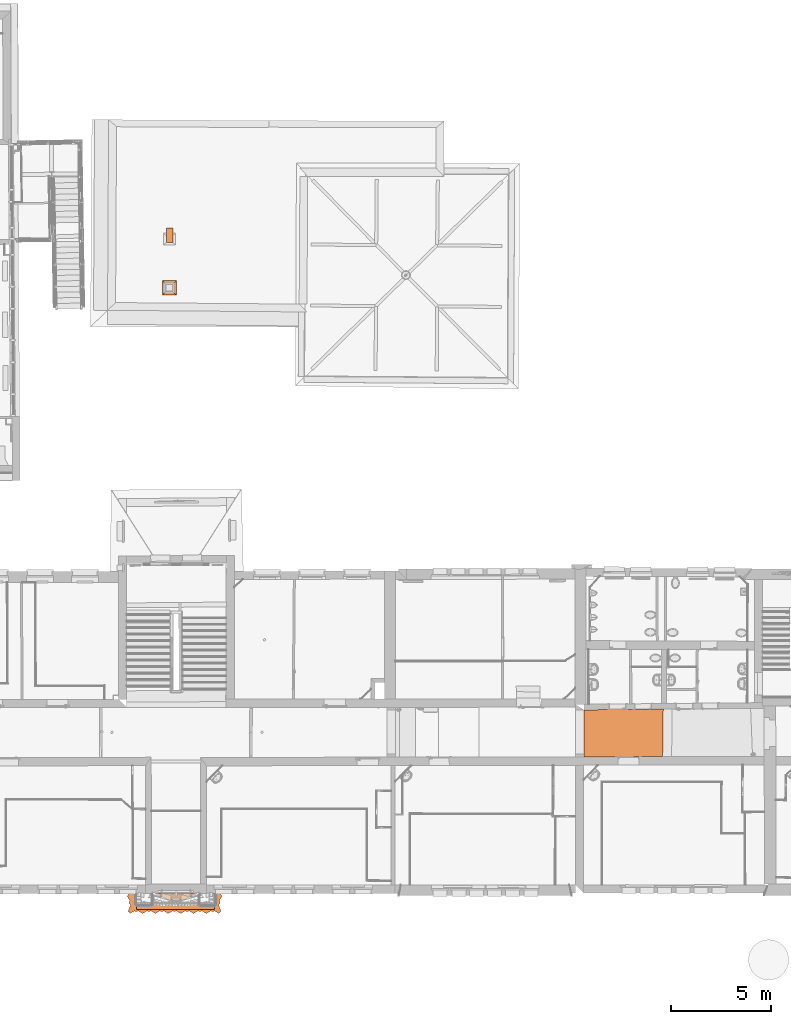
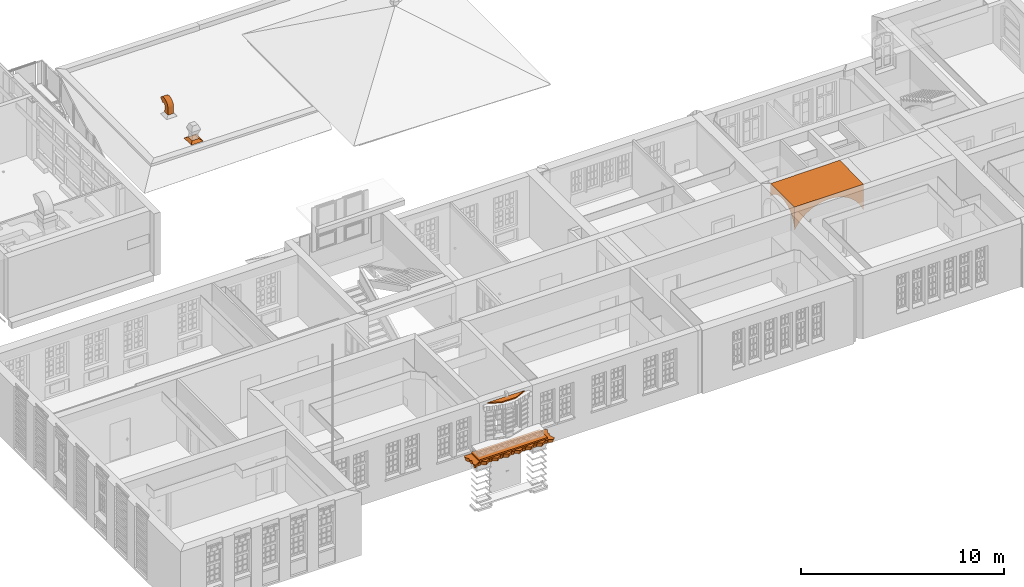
# One storey, part 149 of 158: 6 proxies.
"""IFC2X3 building model written with IfcOpenShell, lengths in metres."""

import ifcopenshell
import ifcopenshell.guid

model = None  # the IFC model being written
_history = None  # IfcOwnerHistory: only IFC2X3 demands one
_inside = {}  # id of a spatial element -> (the spatial element, [elements in it])
_under = {}  # id of a project, library or spatial element -> (it, [spatial elements below it])
_declared = {}  # id of a project -> (the project, [libraries it declares])
_typed = {}  # id of a type object -> (the type object, [elements of that type])
_made_of = {}  # id of a material, layer set ... -> (it, [elements and type objects made of it])


def new_model(schema):
    """Start an empty IFC model of exactly this schema.

    Asked for "IFC4X3", IfcOpenShell would pick the latest addendum, in which some entities
    have other attributes; the version numbers below select the first issue.
    IFC2X3 requires an IfcOwnerHistory on every rooted entity: one is made here for all.
    """
    global model, _history
    if schema == "IFC4X3":
        model = ifcopenshell.file(schema_version=(4, 3, 0, 0))
    else:
        model = ifcopenshell.file(schema=schema)
    _inside.clear()
    _under.clear()
    _declared.clear()
    _typed.clear()
    _made_of.clear()
    _history = None
    if model.schema == "IFC2X3":
        org = make("IfcOrganization", Name="unknown")
        user = make(
            "IfcPersonAndOrganization",
            ThePerson=make("IfcPerson", FamilyName="unknown"),
            TheOrganization=org,
        )
        app = make(
            "IfcApplication",
            ApplicationDeveloper=org,
            Version="unknown",
            ApplicationFullName="unknown",
            ApplicationIdentifier="unknown",
        )
        _history = make(
            "IfcOwnerHistory",
            OwningUser=user,
            OwningApplication=app,
            ChangeAction="ADDED",
            CreationDate=0,
        )
    return model


def make(cls, **values):
    """One entity of the class cls with the attributes given. An attribute that is None is left unset."""
    return model.create_entity(
        cls, **{name: value for name, value in values.items() if value is not None}
    )


def entity(cls, *values):
    """Any entity or typed value of the class cls, its attributes in the order of the schema. None: left unset."""
    e = model.create_entity(cls)
    for i, value in enumerate(values):
        if value is not None:
            e[i] = value
    return e


def rooted(cls, **values):
    """An entity with a GlobalId (a new one), such as an element, a storey or a relation."""
    return make(cls, GlobalId=ifcopenshell.guid.new(), OwnerHistory=_history, **values)


def si_unit(unit_type, name, prefix=None):
    """IfcSIUnit, for example si_unit("LENGTHUNIT", "METRE", prefix="MILLI")."""
    return make("IfcSIUnit", UnitType=unit_type, Prefix=prefix, Name=name)


def converted_unit(unit_type, name, factor, base, dimensions=None, offset=None):
    """IfcConversionBasedUnit, such as the inch: factor (a typed value) times the base unit."""
    return make(
        "IfcConversionBasedUnit"
        if offset is None
        else "IfcConversionBasedUnitWithOffset",
        ConversionOffset=offset,
        Dimensions=None
        if dimensions is None
        else entity("IfcDimensionalExponents", *dimensions),
        UnitType=unit_type,
        Name=name,
        ConversionFactor=make(
            "IfcMeasureWithUnit", ValueComponent=factor, UnitComponent=base
        ),
    )


def derived_unit(unit_type, elements):
    """IfcDerivedUnit: a product of units, each with its exponent."""
    return make(
        "IfcDerivedUnit",
        Elements=[
            make("IfcDerivedUnitElement", Unit=unit, Exponent=power)
            for unit, power in elements
        ],
        UnitType=unit_type,
    )


def money_unit(currency):
    """IfcMonetaryUnit."""
    return make("IfcMonetaryUnit", Currency=currency)


def assignment(units):
    """IfcUnitAssignment: the units of a project."""
    return None if units is None else make("IfcUnitAssignment", Units=units)


def point(xyz):
    """IfcCartesianPoint."""
    return None if xyz is None else make("IfcCartesianPoint", Coordinates=xyz)


def direction(xyz):
    """IfcDirection."""
    return None if xyz is None else make("IfcDirection", DirectionRatios=xyz)


def frame(location, z_axis=None, x_axis=None):
    """IfcAxis2Placement3D, a coordinate frame: its origin and axes. An axis left out is left unset."""
    return make(
        "IfcAxis2Placement3D",
        Location=point(location),
        Axis=direction(z_axis),
        RefDirection=direction(x_axis),
    )


def origin_with_axes():
    """The frame at (0, 0, 0) with the z axis (0, 0, 1) and the x axis (1, 0, 0) written out."""
    return frame((0.0, 0.0, 0.0), z_axis=(0.0, 0.0, 1.0), x_axis=(1.0, 0.0, 0.0))


def place(relative_to, where):
    """IfcLocalPlacement: puts the frame where relative to a parent placement (None: the world)."""
    return make(
        "IfcLocalPlacement", PlacementRelTo=relative_to, RelativePlacement=where
    )


def context(
    kind, dimensions, precision=None, world=None, true_north=None, identifier=None
):
    """IfcGeometricRepresentationContext, for example the 3D "Model" context."""
    return make(
        "IfcGeometricRepresentationContext",
        ContextIdentifier=identifier,
        ContextType=kind,
        CoordinateSpaceDimension=dimensions,
        Precision=precision,
        WorldCoordinateSystem=world,
        TrueNorth=true_north,
    )


def subcontext(parent, identifier, kind, view, scale=None):
    """IfcGeometricRepresentationSubContext, for example "Body" below "Model"."""
    return make(
        "IfcGeometricRepresentationSubContext",
        ContextIdentifier=identifier,
        ContextType=kind,
        ParentContext=parent,
        TargetScale=scale,
        TargetView=view,
    )


def project(units=None, contexts=None):
    """IfcProject with its units and contexts."""
    return rooted(
        "IfcProject",
        Name="project",
        RepresentationContexts=contexts,
        UnitsInContext=assignment(units),
    )


def spatial(cls, under=None, at=None, **own):
    """A site, building, storey or space (cls), placed at a placement, below another one or the project."""
    s = rooted(cls, ObjectPlacement=at, **own)
    if under is not None:
        _under.setdefault(under.id(), (under, []))[1].append(s)
    return s


def faces_of(points, faces, orient=None, outer=None):
    """IfcFace entities. A face is a list of loops; a loop is a list of indices into points, from 0.

    orient and outer hold one flag for each loop. By default every Orientation is true, the
    first loop of a face is its IfcFaceOuterBound and the others are IfcFaceBound.
    """
    made = []
    for i, loops in enumerate(faces):
        bounds = []
        for j, loop in enumerate(loops):
            is_outer = j == 0 if outer is None else outer[i][j]
            bounds.append(
                make(
                    "IfcFaceOuterBound" if is_outer else "IfcFaceBound",
                    Bound=make("IfcPolyLoop", Polygon=[points[k] for k in loop]),
                    Orientation=True if orient is None else orient[i][j],
                )
            )
        made.append(make("IfcFace", Bounds=bounds))
    return made


def faceted_brep(points, faces, orient=None, outer=None, voids=None):
    """IfcFacetedBrep: a solid bounded by flat faces; with voids (closed shells), ...WithVoids."""
    shared = [point(p) for p in points]
    hull = make("IfcClosedShell", CfsFaces=faces_of(shared, faces, orient, outer))
    if voids is None:
        return make("IfcFacetedBrep", Outer=hull)
    return make(
        "IfcFacetedBrepWithVoids",
        Outer=hull,
        Voids=[
            make(cls, CfsFaces=faces_of(shared, fs, o, b)) for cls, fs, o, b in voids
        ],
    )


def shape(context_of_items, identifier, shape_type, items):
    """IfcShapeRepresentation: the items that make up one representation, for example the "Body"."""
    return make(
        "IfcShapeRepresentation",
        ContextOfItems=context_of_items,
        RepresentationIdentifier=identifier,
        RepresentationType=shape_type,
        Items=items,
    )


def material(Name=None, Category=None):
    """IfcMaterial."""
    return make("IfcMaterial", Name=Name, Category=Category)


def made_of(thing, what):
    """Note that an element or type object is made of a material, layer set ...; save() writes the relation."""
    if what is not None:
        _made_of.setdefault(what.id(), (what, []))[1].append(thing)
    return thing


def type_object(cls, material=None, **own):
    """A type object (cls), such as IfcWallType, which elements share."""
    return made_of(rooted(cls, **own), material)


def element(
    cls,
    number,
    at=None,
    inside=None,
    cuts=None,
    type_object=None,
    material=None,
    context=None,
    identifier="Body",
    shape_type=None,
    held_by="IfcProductDefinitionShape",
    body=None,
    shapes=None,
    **own,
):
    """One element of the class cls, such as IfcWall. Its Tag is "e" and its number.

    at: its placement. inside: the storey or other place that contains it. cuts: it is an
    opening in that element (IfcRelVoidsElement). A single representation is given by context,
    identifier, shape_type and body (its items); several are given by shapes. held_by: the class
    of the entity that holds the representations. save() writes the other relations.
    """
    e = rooted(cls, Tag="e%d" % number, ObjectPlacement=at, **own)
    if body is not None:
        shapes = [shape(context, identifier, shape_type, body)]
    if shapes is not None:
        e.Representation = make(held_by, Representations=shapes)
    if inside is not None:
        _inside.setdefault(inside.id(), (inside, []))[1].append(e)
    if cuts is not None:
        rooted(
            "IfcRelVoidsElement", RelatingBuildingElement=cuts, RelatedOpeningElement=e
        )
    if type_object is not None:
        _typed.setdefault(type_object.id(), (type_object, []))[1].append(e)
    return made_of(e, material)


def aggregate(whole, parts):
    """IfcRelAggregates: a whole, such as a stair, and the parts it consists of."""
    return rooted("IfcRelAggregates", RelatingObject=whole, RelatedObjects=parts)


def save(model, path):
    """Write the relations noted so far, then the file.

    IfcRelAggregates (storeys below a building ...), IfcRelContainedInSpatialStructure (elements
    in a storey), IfcRelDefinesByType, IfcRelAssociatesMaterial and IfcRelDeclares: one each for
    every whole, place, type object, material and project.
    """
    for whole, parts in _under.values():
        aggregate(whole, parts)
    for where, things in _inside.values():
        rooted(
            "IfcRelContainedInSpatialStructure",
            RelatedElements=things,
            RelatingStructure=where,
        )
    for kind, things in _typed.values():
        rooted("IfcRelDefinesByType", RelatedObjects=things, RelatingType=kind)
    for what, things in _made_of.values():
        rooted("IfcRelAssociatesMaterial", RelatedObjects=things, RelatingMaterial=what)
    for by, libraries in _declared.values():
        rooted("IfcRelDeclares", RelatingContext=by, RelatedDefinitions=libraries)
    model.write(path)


model = new_model("IFC2X3")

# Units and contexts
model_context = context("Model", 3, precision=1e-05, world=origin_with_axes(), true_north=direction((0.0, 1.0)))
body_context = subcontext(model_context, "Body", "Model", "MODEL_VIEW")
ifc_project = project(units=[si_unit("LENGTHUNIT", "METRE"), si_unit("AREAUNIT", "SQUARE_METRE"), si_unit("VOLUMEUNIT", "CUBIC_METRE"), converted_unit("PLANEANGLEUNIT", "DEGREE", entity("IfcPlaneAngleMeasure", 0.0174532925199), si_unit("PLANEANGLEUNIT", "RADIAN"), dimensions=[0, 0, 0, 0, 0, 0, 0]), money_unit("EUR"), converted_unit("TIMEUNIT", "Year", entity("IfcTimeMeasure", 31556926.0), si_unit("TIMEUNIT", "SECOND"), dimensions=[0, 0, 1, 0, 0, 0, 0]), si_unit("MASSUNIT", "GRAM", prefix="KILO"), si_unit("THERMODYNAMICTEMPERATUREUNIT", "DEGREE_CELSIUS"), si_unit("LUMINOUSINTENSITYUNIT", "LUMEN"), si_unit("ENERGYUNIT", "JOULE", prefix="MEGA"), derived_unit("THERMALCONDUCTANCEUNIT", [(si_unit("POWERUNIT", "WATT"), 1), (si_unit("LENGTHUNIT", "METRE"), -1), (si_unit("THERMODYNAMICTEMPERATUREUNIT", "KELVIN"), -1)]), derived_unit("SPECIFICHEATCAPACITYUNIT", [(si_unit("ENERGYUNIT", "JOULE"), 1), (si_unit("MASSUNIT", "GRAM", prefix="KILO"), -1), (si_unit("THERMODYNAMICTEMPERATUREUNIT", "KELVIN"), -1)]), derived_unit("MASSDENSITYUNIT", [(si_unit("MASSUNIT", "GRAM", prefix="KILO"), 1), (si_unit("VOLUMEUNIT", "CUBIC_METRE"), -1)])], contexts=[model_context])

# Site, building, storey
site_placement = place(None, origin_with_axes())
site = spatial("IfcSite", under=ifc_project, at=site_placement, Name="Gelände", CompositionType="ELEMENT")
building_placement = place(site_placement, origin_with_axes())
building = spatial("IfcBuilding", under=site, at=building_placement, Name="Gebäude", CompositionType="ELEMENT")
storey_placement = place(building_placement, origin_with_axes())
storey = spatial("IfcBuildingStorey", under=building, at=storey_placement, Name="ERDGESCHOSS", CompositionType="ELEMENT", Elevation=0.0)

# Proxies
ifc_material = material(Name="01_ALLGEMEIN - BAUTEIL")
building_element_proxy_type_1 = type_object("IfcBuildingElementProxyType", Name="01_ALLGEMEIN - BAUTEIL", PredefinedType="NOTDEFINED")
proxy_1_placement = place(storey_placement, frame((-9.35951659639, 9.18462417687, 0.741435), z_axis=(0.0, 0.0, 1.0), x_axis=(1.0, 0.0, 0.0)))
element("IfcBuildingElementProxy", 1, at=proxy_1_placement, inside=storey, type_object=building_element_proxy_type_1, material=ifc_material, Name="Morph-173", context=body_context, shape_type="Brep", body=[
    faceted_brep([(0.0, 0.0, 0.0), (0.0, 0.79081451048, 0.0), (3.89429167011, 0.79081451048, 0.0), (3.89429167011, 0.0, 0.0), (0.0, 0.0, 0.0845635), (0.0, 0.79081451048, 0.0845635), (3.89429167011, 0.79081451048, 0.0845635), (3.89429167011, 0.0, 0.0845635)], [[[0, 1, 2, 3]], [[1, 0, 4, 5]], [[2, 1, 5, 6]], [[3, 2, 6, 7]], [[0, 3, 7, 4]], [[5, 4, 7, 6]]]),
])
proxy_2_placement = place(storey_placement, frame((-7.3779606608, 9.67640158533, 3.4071805), z_axis=(0.0, 0.0, 1.0), x_axis=(1.0, 0.0, 0.0)))
element("IfcBuildingElementProxy", 2, at=proxy_2_placement, inside=storey, type_object=building_element_proxy_type_1, material=ifc_material, Name="Morph-188", context=body_context, shape_type="Brep", body=[
    faceted_brep([(-1.05, 0.299037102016, 0.07), (-0.4, 0.0, 0.07), (0.4, 0.0, 0.07), (1.05, 0.299037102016, 0.07), (-1.05, 0.299037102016, 0.0), (-0.4, 0.0, 0.0), (0.4, 0.0, 0.0), (1.05, 0.299037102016, 0.0)], [[[0, 1, 2, 3]], [[1, 0, 4, 5]], [[2, 1, 5, 6]], [[2, 6, 7, 3]], [[4, 0, 3, 7]], [[5, 4, 7, 6]]]),
])
proxy_3_placement = place(storey_placement, frame((-7.86297468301, 42.4823943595, 1.31716706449), z_axis=(0.0, 0.0, 1.0), x_axis=(1.0, 0.0, 0.0)))
element("IfcBuildingElementProxy", 3, at=proxy_3_placement, inside=storey, type_object=building_element_proxy_type_1, material=ifc_material, Name="Morph-286", context=body_context, shape_type="Brep", body=[
    faceted_brep([(0.0, -0.0168234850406, -0.450364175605), (0.0, 0.0, 0.0), (0.0, 0.0193109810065, 0.0763068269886), (0.0, 0.0527670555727, 0.147555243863), (0.0, 0.0991496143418, 0.211150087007), (0.0, 0.15676921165, 0.264774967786), (0.0, 0.223527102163, 0.306476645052), (0.0, 0.296991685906, 0.334736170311), (0.0, 0.374487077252, 0.34852421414), (0.0, 0.453190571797, 0.347338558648), (0.0, 0.530235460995, 0.331222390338), (0.0, 0.602815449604, 0.300762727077), (0.0, 0.668286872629, 0.257069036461), (0.0, 0.724264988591, 0.201732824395), (0.0, 0.517125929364, -0.0128961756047), (0.0, 0.493322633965, 0.0150756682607), (0.0, 0.46193155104, 0.034144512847), (0.0, 0.426136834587, 0.0423761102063), (0.0, 0.389569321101, 0.0389354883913), (0.0, 0.355938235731, 0.024171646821), (0.0, 0.328654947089, -0.000417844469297), (0.0, 0.310486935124, -0.0323387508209), (0.0, 0.303277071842, -0.0683531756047), (0.0, 0.307379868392, -0.290329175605), (0.0, 0.32664186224, -0.450364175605), (0.321959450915, -0.0168234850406, -0.450364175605), (0.321959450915, 0.0, 0.0), (0.321959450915, 0.0193109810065, 0.0763068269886), (0.321959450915, 0.0527670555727, 0.147555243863), (0.321959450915, 0.0991496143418, 0.211150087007), (0.321959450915, 0.15676921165, 0.264774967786), (0.321959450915, 0.223527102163, 0.306476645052), (0.321959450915, 0.296991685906, 0.334736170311), (0.321959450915, 0.374487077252, 0.34852421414), (0.321959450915, 0.453190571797, 0.347338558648), (0.321959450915, 0.530235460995, 0.331222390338), (0.321959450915, 0.602815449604, 0.300762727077), (0.321959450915, 0.668286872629, 0.257069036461), (0.321959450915, 0.724264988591, 0.201732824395), (0.321959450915, 0.517125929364, -0.0128961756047), (0.321959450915, 0.493322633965, 0.0150756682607), (0.321959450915, 0.46193155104, 0.034144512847), (0.321959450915, 0.426136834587, 0.0423761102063), (0.321959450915, 0.389569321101, 0.0389354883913), (0.321959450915, 0.355938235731, 0.024171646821), (0.321959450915, 0.328654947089, -0.000417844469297), (0.321959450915, 0.310486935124, -0.0323387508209), (0.321959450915, 0.303277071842, -0.0683531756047), (0.321959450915, 0.307379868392, -0.290329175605), (0.321959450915, 0.32664186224, -0.450364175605)], [[[0, 1, 2, 3, 4, 5, 6, 7, 8, 9, 10, 11, 12, 13, 14, 15, 16, 17, 18, 19, 20, 21, 22, 23, 24]], [[1, 0, 25, 26]], [[2, 1, 26, 27]], [[3, 2, 27, 28]], [[4, 3, 28, 29]], [[5, 4, 29, 30]], [[6, 5, 30, 31]], [[7, 6, 31, 32]], [[8, 7, 32, 33]], [[9, 8, 33, 34]], [[10, 9, 34, 35]], [[11, 10, 35, 36]], [[12, 11, 36, 37]], [[13, 12, 37, 38]], [[14, 13, 38, 39]], [[15, 14, 39, 40]], [[16, 15, 40, 41]], [[17, 16, 41, 42]], [[18, 17, 42, 43]], [[19, 18, 43, 44]], [[20, 19, 44, 45]], [[21, 20, 45, 46]], [[22, 21, 46, 47]], [[23, 22, 47, 48]], [[24, 23, 48, 49]], [[0, 24, 49, 25]], [[27, 26, 25, 49, 48, 47, 46, 45, 44, 43, 42, 41, 40, 39, 38, 37, 36, 35, 34, 33, 32, 31, 30, 29, 28]]]),
])
proxy_4_placement = place(storey_placement, frame((-8.05365145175, 40.5706679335, 0.716725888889), z_axis=(0.0, 0.0, 1.0), x_axis=(1.0, 0.0, 0.0)))
element("IfcBuildingElementProxy", 4, at=proxy_4_placement, inside=storey, type_object=building_element_proxy_type_1, material=ifc_material, Name="Morph-295", context=body_context, shape_type="Brep", body=[
    faceted_brep([(0.0, -0.713221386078, 0.0), (0.0, 0.0, 0.0), (0.692817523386, 0.0, 0.0), (0.692817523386, -0.713221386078, 0.0), (0.152542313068, -0.544298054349, 0.113728), (0.152542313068, -0.168923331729, 0.113728), (0.523894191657, -0.168923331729, 0.113728), (0.523894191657, -0.544298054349, 0.113728)], [[[0, 1, 2, 3]], [[0, 4, 1]], [[2, 1, 5]], [[3, 2, 6]], [[4, 0, 3]], [[4, 5, 1]], [[5, 6, 2]], [[7, 3, 6]], [[7, 4, 3]], [[5, 4, 7, 6]]]),
])
proxy_5_placement = place(storey_placement, frame((0.0, 5.0, 0.0), z_axis=(0.0, 0.0, 1.0), x_axis=(1.0, 0.0, 0.0)))
element("IfcBuildingElementProxy", 5, at=proxy_5_placement, inside=storey, type_object=building_element_proxy_type_1, material=ifc_material, Name="Morph-297", context=body_context, shape_type="Brep", body=[
    faceted_brep([(-9.70437105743, 4.04997570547, 0.741435), (-9.7703285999, 4.09081306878, 0.741435), (-9.68357444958, 4.13447761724, 0.501435), (-9.66913011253, 3.98945290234, 0.741435), (-9.44453427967, 4.12361599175, 0.741435), (-9.42782666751, 4.10535413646, 0.741435), (-9.40729718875, 4.09152734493, 0.741435), (-9.3840944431, 4.08290920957, 0.741435), (-9.35951659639, 4.07998190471, 0.741435), (-9.33493874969, 4.08290920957, 0.741435), (-9.31173600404, 4.09152734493, 0.741435), (-9.29120652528, 4.10535413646, 0.741435), (-9.27449891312, 4.12361599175, 0.741435), (-9.04207709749, 3.98477802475, 0.741435), (-8.80965528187, 4.12361599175, 0.741435), (-8.79294766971, 4.10535413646, 0.741435), (-8.77241819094, 4.09152734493, 0.741435), (-8.7492154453, 4.08290920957, 0.741435), (-8.72463759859, 4.07998190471, 0.741435), (-8.70005975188, 4.08290920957, 0.741435), (-8.67685700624, 4.09152734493, 0.741435), (-8.65632752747, 4.10535413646, 0.741435), (-8.63961991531, 4.12361599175, 0.741435), (-8.40719809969, 3.98477802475, 0.741435), (-8.17477628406, 4.12361599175, 0.741435), (-8.1580686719, 4.10535413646, 0.741435), (-8.13753919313, 4.09152734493, 0.741435), (-8.11433644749, 4.08290920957, 0.741435), (-8.08975860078, 4.07998190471, 0.741435), (-8.06518075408, 4.08290920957, 0.741435), (-8.04197800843, 4.09152734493, 0.741435), (-8.02144852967, 4.10535413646, 0.741435), (-8.0047409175, 4.12361599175, 0.741435), (-7.77231910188, 3.98477802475, 0.741435), (-7.53989728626, 4.12361599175, 0.741435), (-7.5231896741, 4.10535413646, 0.741435), (-7.50266019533, 4.09152734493, 0.741435), (-7.47945744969, 4.08290920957, 0.741435), (-7.45487960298, 4.07998190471, 0.741435), (-7.43030175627, 4.08290920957, 0.741435), (-7.40709901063, 4.09152734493, 0.741435), (-7.38656953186, 4.10535413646, 0.741435), (-7.3698619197, 4.12361599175, 0.741435), (-7.13744010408, 3.98477802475, 0.741435), (-6.90501828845, 4.12361599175, 0.741435), (-6.88831067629, 4.10535413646, 0.741435), (-6.86778119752, 4.09152734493, 0.741435), (-6.84457845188, 4.08290920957, 0.741435), (-6.82000060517, 4.07998190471, 0.741435), (-6.79542275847, 4.08290920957, 0.741435), (-6.77222001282, 4.09152734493, 0.741435), (-6.75169053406, 4.10535413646, 0.741435), (-6.73498292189, 4.12361599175, 0.741435), (-6.50256110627, 3.98477802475, 0.741435), (-6.27013929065, 4.12361599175, 0.741435), (-6.25343167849, 4.10535413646, 0.741435), (-6.23290219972, 4.09152734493, 0.741435), (-6.20969945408, 4.08290920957, 0.741435), (-6.18512160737, 4.07998190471, 0.741435), (-6.16054376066, 4.08290920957, 0.741435), (-6.13734101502, 4.09152734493, 0.741435), (-6.11681153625, 4.10535413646, 0.741435), (-6.10010392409, 4.12361599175, 0.741435), (-5.86768210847, 3.98477802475, 0.741435), (-5.63526029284, 4.12361599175, 0.741435), (-5.61855268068, 4.10535413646, 0.741435), (-5.59802320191, 4.09152734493, 0.741435), (-5.57482045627, 4.08290920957, 0.741435), (-5.55024260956, 4.07998190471, 0.741435), (-5.52566476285, 4.08290920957, 0.741435), (-5.50246201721, 4.09152734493, 0.741435), (-5.48193253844, 4.10535413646, 0.741435), (-5.46522492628, 4.12361599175, 0.741435), (-5.23280311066, 3.98477802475, 0.741435), (-5.19484009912, 4.04997570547, 0.741435), (-5.12888255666, 4.09081306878, 0.741435), (-5.26215724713, 4.43815262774, 0.741435), (-5.23381380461, 4.44597903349, 0.741435), (-5.2091960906, 4.46205919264, 0.741435), (-5.19063903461, 4.48486794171, 0.741435), (-5.17990272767, 4.51224192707, 0.741435), (-5.17800548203, 4.54158479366, 0.741435), (-5.18512724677, 4.57011344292, 0.741435), (-5.20059254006, 4.59512200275, 0.741435), (-5.22293451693, 4.61423847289, 0.741435), (-5.08426835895, 4.84849520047, 0.741435), (-5.16574452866, 4.97543868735, 0.741435), (-9.73346662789, 4.97543868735, 0.741435), (-9.8149427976, 4.84849520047, 0.741435), (-9.67627663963, 4.61423847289, 0.741435), (-9.6986186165, 4.59512200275, 0.741435), (-9.71408390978, 4.57011344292, 0.741435), (-9.72120567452, 4.54158479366, 0.741435), (-9.71930842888, 4.51224192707, 0.741435), (-9.70857212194, 4.48486794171, 0.741435), (-9.69001506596, 4.46205919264, 0.741435), (-9.66539735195, 4.44597903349, 0.741435), (-9.63705390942, 4.43815262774, 0.741435), (-9.56705390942, 4.43815262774, 0.501435), (-9.65598271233, 4.10808460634, 0.501435), (-9.63352532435, 4.074094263, 0.501435), (-9.41727861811, 4.17502776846, 0.501435), (-9.39674913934, 4.16120097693, 0.501435), (-9.3735463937, 4.15258284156, 0.501435), (-9.34896854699, 4.14965553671, 0.501435), (-9.32439070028, 4.15258284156, 0.501435), (-9.30118795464, 4.16120097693, 0.501435), (-9.26395086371, 4.19328962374, 0.501435), (-9.03680307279, 4.05760211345, 0.501435), (-8.80965528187, 4.19328962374, 0.501435), (-8.79294766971, 4.17502776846, 0.501435), (-8.77241819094, 4.16120097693, 0.501435), (-8.7492154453, 4.15258284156, 0.501435), (-8.70005975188, 4.15258284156, 0.501435), (-8.67685700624, 4.16120097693, 0.501435), (-8.65632752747, 4.17502776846, 0.501435), (-8.40719809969, 4.05445165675, 0.501435), (-8.17477628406, 4.19328962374, 0.501435), (-8.1580686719, 4.17502776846, 0.501435), (-8.13753919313, 4.16120097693, 0.501435), (-8.11433644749, 4.15258284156, 0.501435), (-8.08975860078, 4.14965553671, 0.501435), (-8.06518075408, 4.15258284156, 0.501435), (-8.04197800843, 4.16120097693, 0.501435), (-8.02144852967, 4.17502776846, 0.501435), (-7.77231910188, 4.05445165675, 0.501435), (-7.53989728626, 4.19328962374, 0.501435), (-7.5231896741, 4.17502776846, 0.501435), (-7.47945744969, 4.15258284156, 0.501435), (-7.45487960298, 4.14965553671, 0.501435), (-7.40709901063, 4.16120097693, 0.501435), (-7.38656953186, 4.17502776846, 0.501435), (-7.13744010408, 4.05445165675, 0.501435), (-6.90501828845, 4.19328962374, 0.501435), (-6.88831067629, 4.17502776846, 0.501435), (-6.86778119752, 4.16120097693, 0.501435), (-6.82000060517, 4.14965553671, 0.501435), (-6.79542275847, 4.15258284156, 0.501435), (-6.75169053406, 4.17502776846, 0.501435), (-6.73498292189, 4.19328962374, 0.501435), (-6.50256110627, 4.05445165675, 0.501435), (-6.27013929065, 4.19328962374, 0.501435), (-6.25343167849, 4.17502776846, 0.501435), (-6.23290219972, 4.16120097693, 0.501435), (-6.18512160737, 4.14965553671, 0.501435), (-6.16054376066, 4.15258284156, 0.501435), (-6.13734101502, 4.16120097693, 0.501435), (-6.10010392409, 4.19328962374, 0.501435), (-5.86768210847, 4.05445165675, 0.501435), (-5.63526029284, 4.19328962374, 0.501435), (-5.59802320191, 4.16120097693, 0.501435), (-5.57482045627, 4.15258284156, 0.501435), (-5.55024260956, 4.14965553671, 0.501435), (-5.52566476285, 4.15258284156, 0.501435), (-5.48193253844, 4.17502776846, 0.501435), (-5.46522492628, 4.19328962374, 0.501435), (-5.26568583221, 4.074094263, 0.501435), (-5.21563670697, 4.13447761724, 0.501435), (-5.33215724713, 4.43815262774, 0.501435), (-5.2791960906, 4.46205919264, 0.501435), (-5.26063903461, 4.48486794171, 0.501435), (-5.24800548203, 4.54158479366, 0.501435), (-5.25512724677, 4.57011344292, 0.501435), (-5.27059254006, 4.59512200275, 0.501435), (-5.15426835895, 4.84849520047, 0.501435), (-5.23574452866, 4.97543868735, 0.501435), (-9.66346662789, 4.97543868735, 0.501435), (-9.7449427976, 4.84849520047, 0.501435), (-9.60627663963, 4.61423847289, 0.501435), (-9.6286186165, 4.59512200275, 0.501435), (-9.64408390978, 4.57011344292, 0.501435), (-9.65120567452, 4.54158479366, 0.501435), (-9.64930842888, 4.51224192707, 0.501435), (-9.63857212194, 4.48486794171, 0.501435), (-9.62001506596, 4.46205919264, 0.501435), (-9.59539735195, 4.44597903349, 0.501435), (-5.29293451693, 4.61423847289, 0.501435), (-5.24990272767, 4.51224192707, 0.501435), (-5.30381380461, 4.44597903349, 0.501435), (-5.24322844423, 4.10808460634, 0.501435), (-5.50246201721, 4.16120097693, 0.501435), (-5.61855268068, 4.17502776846, 0.501435), (-6.11681153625, 4.17502776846, 0.501435), (-6.20969945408, 4.15258284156, 0.501435), (-6.77222001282, 4.16120097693, 0.501435), (-6.84457845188, 4.15258284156, 0.501435), (-7.3698619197, 4.19328962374, 0.501435), (-7.43030175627, 4.15258284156, 0.501435), (-7.50266019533, 4.16120097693, 0.501435), (-8.0047409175, 4.19328962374, 0.501435), (-8.63961991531, 4.19328962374, 0.501435), (-8.72463759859, 4.14965553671, 0.501435), (-9.28065847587, 4.17502776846, 0.501435), (-9.43398623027, 4.19328962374, 0.501435)], [[[0, 1, 2]], [[1, 0, 3, 4, 5, 6, 7, 8, 9, 10, 11, 12, 13, 14, 15, 16, 17, 18, 19, 20, 21, 22, 23, 24, 25, 26, 27, 28, 29, 30, 31, 32, 33, 34, 35, 36, 37, 38, 39, 40, 41, 42, 43, 44, 45, 46, 47, 48, 49, 50, 51, 52, 53, 54, 55, 56, 57, 58, 59, 60, 61, 62, 63, 64, 65, 66, 67, 68, 69, 70, 71, 72, 73, 74, 75, 76, 77, 78, 79, 80, 81, 82, 83, 84, 85, 86, 87, 88, 89, 90, 91, 92, 93, 94, 95, 96, 97]], [[2, 1, 98]], [[2, 99, 0]], [[0, 99, 3]], [[100, 4, 3]], [[5, 4, 101]], [[6, 5, 101]], [[7, 6, 102]], [[8, 7, 103]], [[104, 9, 8]], [[10, 9, 105]], [[11, 10, 106]], [[12, 11, 107]], [[108, 13, 12]], [[14, 13, 109]], [[15, 14, 109]], [[110, 16, 15]], [[17, 16, 111]], [[18, 17, 112]], [[19, 18, 113]], [[20, 19, 113]], [[20, 114, 21]], [[22, 21, 115]], [[22, 116, 23]], [[24, 23, 117]], [[25, 24, 117]], [[118, 26, 25]], [[27, 26, 119]], [[28, 27, 120]], [[121, 29, 28]], [[30, 29, 122]], [[30, 123, 31]], [[32, 31, 124]], [[32, 125, 33]], [[125, 34, 33]], [[35, 34, 126]], [[127, 36, 35]], [[128, 37, 36]], [[37, 129, 38]], [[129, 39, 38]], [[40, 39, 130]], [[41, 40, 131]], [[42, 41, 131]], [[132, 43, 42]], [[44, 43, 133]], [[45, 44, 134]], [[45, 135, 46]], [[47, 46, 135]], [[47, 136, 48]], [[136, 49, 48]], [[50, 49, 137]], [[50, 138, 51]], [[52, 51, 139]], [[52, 140, 53]], [[54, 53, 141]], [[55, 54, 141]], [[142, 56, 55]], [[57, 56, 143]], [[144, 58, 57]], [[59, 58, 145]], [[60, 59, 145]], [[60, 146, 61]], [[61, 147, 62]], [[63, 62, 148]], [[63, 148, 64]], [[65, 64, 149]], [[66, 65, 150]], [[67, 66, 151]], [[68, 67, 151]], [[69, 68, 152]], [[70, 69, 153]], [[71, 70, 154]], [[72, 71, 155]], [[72, 156, 73]], [[156, 74, 73]], [[74, 157, 75]], [[157, 76, 75]], [[158, 77, 76]], [[77, 159, 78]], [[159, 79, 78]], [[79, 160, 80]], [[80, 161, 81]], [[81, 162, 82]], [[162, 83, 82]], [[163, 84, 83]], [[84, 164, 85]], [[165, 86, 85]], [[166, 87, 86, 165]], [[166, 88, 87]], [[88, 167, 89]], [[168, 90, 89]], [[169, 91, 90]], [[170, 92, 91]], [[171, 93, 92]], [[94, 93, 172]], [[173, 95, 94]], [[95, 174, 96]], [[175, 97, 96]], [[98, 1, 97]], [[100, 99, 2, 98, 175, 174, 173, 172, 171, 170, 169, 168, 167, 166, 165, 164, 176, 163, 162, 161, 177, 160, 159, 178, 158, 157, 179, 156, 155, 154, 180, 153, 152, 151, 150, 181, 149, 148, 147, 182, 146, 145, 144, 183, 143, 142, 141, 140, 139, 138, 184, 137, 136, 185, 135, 134, 133, 132, 186, 131, 130, 187, 129, 128, 188, 127, 126, 125, 189, 124, 123, 122, 121, 120, 119, 118, 117, 116, 190, 115, 114, 113, 191, 112, 111, 110, 109, 108, 107, 192, 106, 105, 104, 103, 102, 101, 193]], [[99, 100, 3]], [[4, 100, 193]], [[101, 4, 193]], [[102, 6, 101]], [[103, 7, 102]], [[8, 103, 104]], [[9, 104, 105]], [[10, 105, 106]], [[11, 106, 192]], [[11, 192, 107]], [[108, 12, 107]], [[13, 108, 109]], [[109, 110, 15]], [[111, 16, 110]], [[17, 111, 112]], [[191, 18, 112]], [[18, 191, 113]], [[114, 20, 113]], [[21, 114, 115]], [[115, 190, 22]], [[116, 22, 190]], [[23, 116, 117]], [[117, 118, 25]], [[119, 26, 118]], [[120, 27, 119]], [[121, 28, 120]], [[29, 121, 122]], [[123, 30, 122]], [[123, 124, 31]], [[124, 189, 32]], [[125, 32, 189]], [[34, 125, 126]], [[126, 127, 35]], [[188, 36, 127]], [[37, 128, 129]], [[128, 36, 188]], [[39, 129, 187]], [[130, 39, 187]], [[40, 130, 131]], [[131, 186, 42]], [[43, 132, 133]], [[132, 42, 186]], [[133, 134, 44]], [[135, 45, 134]], [[185, 47, 135]], [[136, 47, 185]], [[49, 136, 137]], [[50, 137, 184]], [[138, 50, 184]], [[138, 139, 51]], [[140, 52, 139]], [[53, 140, 141]], [[141, 142, 55]], [[56, 142, 143]], [[57, 143, 183]], [[58, 144, 145]], [[144, 57, 183]], [[146, 60, 145]], [[146, 182, 61]], [[182, 147, 61]], [[62, 147, 148]], [[64, 148, 149]], [[65, 149, 181]], [[150, 65, 181]], [[151, 66, 150]], [[152, 68, 151]], [[153, 69, 152]], [[70, 153, 180]], [[154, 70, 180]], [[155, 71, 154]], [[156, 72, 155]], [[74, 156, 179]], [[179, 157, 74]], [[157, 158, 76]], [[158, 178, 77]], [[178, 159, 77]], [[159, 160, 79]], [[160, 177, 80]], [[80, 177, 161]], [[161, 162, 81]], [[162, 163, 83]], [[163, 176, 84]], [[176, 164, 84]], [[164, 165, 85]], [[166, 167, 88]], [[167, 168, 89]], [[168, 169, 90]], [[169, 170, 91]], [[170, 171, 92]], [[172, 93, 171]], [[172, 173, 94]], [[173, 174, 95]], [[174, 175, 96]], [[98, 97, 175]]]),
])
building_element_proxy_type_2 = type_object("IfcBuildingElementProxyType", Name="quickArch Kreuzgratgewölbe_1.0", PredefinedType="NOTDEFINED")
proxy_6_placement = place(storey_placement, frame((13.9427350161, 19.0589412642, 2.2), z_axis=(0.0, 0.0, 1.0), x_axis=(0.999998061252, 0.00196913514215, 0.0)))
element("IfcBuildingElementProxy", 6, at=proxy_6_placement, inside=storey, type_object=building_element_proxy_type_2, Name="Objekt-00221", context=body_context, shape_type="Brep", body=[
    faceted_brep([(-0.966093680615, -0.781000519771, 1.1738615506), (-0.966314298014, -0.929747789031, 1.19687849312), (-0.966537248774, -1.0800682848, 1.20457766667), (-0.966537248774, -1.0800682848, 1.4), (-0.964799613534, 0.0915006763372, 1.4), (-0.964799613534, 0.0915006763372, 0.623303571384), (-0.964943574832, -0.00556261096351, 0.738343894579), (-0.965104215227, -0.113871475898, 0.8428653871), (-0.965279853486, -0.232292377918, 0.935774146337), (-0.965468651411, -0.359585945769, 1.0160978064), (-0.965668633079, -0.494419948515, 1.08299571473), (-0.965877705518, -0.635383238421, 1.13576773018), (0.697565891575, -0.814859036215, 1.19998509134), (1.04689257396, -1.00531993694, 1.20888133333), (1.04689257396, -1.00531993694, 1.4), (0.358853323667, -0.630185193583, 1.17356667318), (0.0410464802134, -0.4569096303, 1.13042878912), (-0.246198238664, -0.300297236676, 1.07188216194), (-0.494153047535, -0.16510660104, 0.999705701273), (-0.695283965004, -0.0554454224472, 0.916092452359), (-0.84347972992, 0.0253542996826, 0.823582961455), (-0.934237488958, 0.074837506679, 0.724988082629)], [[[0, 1, 2, 3, 4, 5, 6, 7, 8, 9, 10, 11]], [[1, 0, 12]], [[2, 1, 13]], [[3, 2, 13, 14]], [[4, 3, 14]], [[5, 4, 14, 13, 12, 15, 16, 17, 18, 19, 20, 21]], [[6, 5, 21]], [[7, 6, 20]], [[8, 7, 19]], [[9, 8, 18]], [[10, 9, 17]], [[11, 10, 16]], [[0, 11, 15]], [[0, 15, 12]], [[1, 12, 13]], [[15, 11, 16]], [[10, 17, 16]], [[9, 18, 17]], [[8, 19, 18]], [[7, 20, 19]], [[6, 21, 20]]]),
    faceted_brep([(-0.968274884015, -2.25163724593, -0.0131873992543), (-0.968248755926, -2.23402085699, 0.193275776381), (-0.937659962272, -2.23270288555, 0.199022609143), (-0.968274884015, -2.25163724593, 1.4), (-0.966537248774, -1.0800682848, 1.4), (-0.966537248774, -1.0800682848, 1.20457766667), (-0.966842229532, -1.28569601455, 1.17899399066), (-0.96713637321, -1.48401704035, 1.11894347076), (-0.967411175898, -1.66929775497, 1.02616221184), (-0.967658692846, -1.83618155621, 0.90333258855), (-0.967871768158, -1.97984371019, 0.754005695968), (-0.968044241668, -2.09613083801, 0.582498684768), (-0.968171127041, -2.18168099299, 0.393769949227), (-0.846745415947, -2.17647511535, 0.404784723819), (-0.698293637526, -2.0846623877, 0.59784696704), (-0.496815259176, -1.96005438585, 0.772343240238), (-0.24843209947, -1.8064372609, 0.922971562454), (0.0393088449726, -1.62847859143, 1.04515516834), (0.357664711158, -1.43158556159, 1.13518157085), (0.696962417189, -1.22174066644, 1.19031536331), (1.04689257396, -1.00531993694, 1.20888133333), (1.04689257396, -1.00531993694, 1.4)], [[[0, 1, 2]], [[1, 0, 3, 4, 5, 6, 7, 8, 9, 10, 11, 12]], [[2, 1, 12]], [[3, 0, 2, 13, 14, 15, 16, 17, 18, 19, 20, 21]], [[4, 3, 21]], [[5, 4, 21, 20]], [[6, 5, 19]], [[7, 6, 18]], [[8, 7, 17]], [[9, 8, 16]], [[10, 9, 15]], [[11, 10, 14]], [[12, 11, 13]], [[2, 12, 13]], [[13, 11, 14]], [[14, 10, 15]], [[15, 9, 16]], [[8, 17, 16]], [[17, 7, 18]], [[18, 6, 19]], [[19, 5, 20]]]),
    faceted_brep([(-0.831951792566, -2.25168525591, 0.219362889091), (-0.968274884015, -2.25163724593, -0.0131873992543), (-0.937659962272, -2.23270288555, 0.199022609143), (-0.668250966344, -2.25174290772, 0.433525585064), (-0.479622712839, -2.25180933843, 0.626095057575), (-0.268890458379, -2.25188355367, 0.794188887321), (-0.0392084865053, -2.25196444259, 0.935291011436), (0.205985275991, -2.25205079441, 1.04728938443), (0.463020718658, -2.25214131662, 1.12850759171), (0.728050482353, -2.25223465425, 1.17772994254), (0.997107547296, -2.2523294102, 1.19421966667), (0.997107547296, -2.2523294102, 1.4), (-0.968274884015, -2.25163724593, 1.4), (1.04689257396, -1.00531993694, 1.4), (1.04689257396, -1.00531993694, 1.20888133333), (0.696962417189, -1.22174066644, 1.19031536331), (0.357664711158, -1.43158556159, 1.13518157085), (0.0393088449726, -1.62847859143, 1.04515516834), (-0.24843209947, -1.8064372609, 0.922971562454), (-0.496815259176, -1.96005438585, 0.772343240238), (-0.698293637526, -2.0846623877, 0.59784696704), (-0.846745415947, -2.17647511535, 0.404784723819)], [[[0, 1, 2]], [[1, 0, 3, 4, 5, 6, 7, 8, 9, 10, 11, 12]], [[1, 12, 13, 14, 15, 16, 17, 18, 19, 20, 21, 2]], [[0, 2, 21]], [[3, 0, 21]], [[3, 20, 4]], [[5, 4, 19]], [[6, 5, 18]], [[7, 6, 17]], [[8, 7, 16]], [[8, 15, 9]], [[10, 9, 14]], [[11, 10, 14, 13]], [[12, 11, 13]], [[9, 15, 14]], [[8, 16, 15]], [[7, 17, 16]], [[6, 18, 17]], [[5, 19, 18]], [[4, 20, 19]], [[3, 21, 20]]]),
    faceted_brep([(1.55681132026, -2.2525265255, 1.11807979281), (1.27953700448, -2.25242887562, 1.17509743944), (1.70206547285, -1.43205902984, 1.12543349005), (1.82386944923, -2.25262057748, 1.02420746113), (2.07583682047, -2.25270931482, 0.895193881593), (2.30811431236, -2.25279111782, 0.733393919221), (2.51646219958, -2.25286449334, 0.541760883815), (2.69707754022, -2.25292810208, 0.323792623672), (2.84666359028, -2.25298078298, 0.0834676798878), (2.96248997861, -2.25302157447, -0.174827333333), (2.96248997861, -2.25302157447, 1.4), (0.997107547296, -2.2523294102, 1.4), (0.997107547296, -2.2523294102, 1.19421966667), (1.37953257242, -1.22198105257, 1.18785968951), (2.00469127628, -1.62917075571, 1.02349952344), (2.27821485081, -1.80732709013, 0.885155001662), (2.51432532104, -1.96111484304, 0.714603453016), (2.70584858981, -2.08586125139, 0.517027), (2.8469653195, -2.17777595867, 0.298428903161), (2.93338774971, -2.23406618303, 0.0654511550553), (1.04689257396, -1.00531993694, 1.20888133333), (1.04689257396, -1.00531993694, 1.4)], [[[0, 1, 2]], [[1, 0, 3, 4, 5, 6, 7, 8, 9, 10, 11, 12]], [[1, 13, 2]], [[14, 0, 2]], [[3, 0, 14]], [[4, 3, 15]], [[5, 4, 16]], [[6, 5, 17]], [[7, 6, 18]], [[8, 7, 19]], [[8, 19, 9]], [[13, 20, 21, 10, 9, 19, 18, 17, 16, 15, 14, 2]], [[21, 11, 10]], [[12, 11, 21, 20]], [[1, 12, 13]], [[3, 14, 15]], [[16, 4, 15]], [[17, 5, 16]], [[6, 17, 18]], [[7, 18, 19]], [[13, 12, 20]]]),
    faceted_brep([(2.27821485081, -1.80732709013, 0.885155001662), (2.51432532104, -1.96111484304, 0.714603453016), (2.70584858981, -2.08586125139, 0.517027), (2.8469653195, -2.17777595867, 0.298428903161), (2.93338774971, -2.23406618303, 0.0654511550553), (2.96248997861, -2.25302157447, -0.174827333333), (2.96248997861, -2.25302157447, 1.4), (1.04689257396, -1.00531993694, 1.4), (1.04689257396, -1.00531993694, 1.20888133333), (1.37953257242, -1.22198105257, 1.18785968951), (1.70206547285, -1.43205902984, 1.12543349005), (2.00469127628, -1.62917075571, 1.02349952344), (2.96624359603, -1.98479653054, 0.655178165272), (2.9646318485, -2.09996837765, 0.466056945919), (2.96345168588, -2.18430013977, 0.261311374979), (2.96273187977, -2.23573586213, 0.0459330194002), (2.96824763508, -1.84159241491, 0.824064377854), (2.97059510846, -1.67384725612, 0.968598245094), (2.97322878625, -1.48565057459, 1.08525612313), (2.97608446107, -1.28159048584, 1.171193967), (2.97909251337, -1.06664184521, 1.22431666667), (2.97909251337, -1.06664184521, 1.4)], [[[0, 1, 2, 3, 4, 5, 6, 7, 8, 9, 10, 11]], [[12, 1, 0]], [[1, 13, 2]], [[14, 3, 2]], [[15, 4, 3]], [[15, 5, 4]], [[5, 15, 14, 13, 12, 16, 17, 18, 19, 20, 21, 6]], [[7, 6, 21]], [[8, 7, 21, 20]], [[9, 8, 19]], [[10, 9, 18]], [[11, 10, 17]], [[0, 11, 16]], [[1, 12, 13]], [[12, 0, 16]], [[13, 14, 2]], [[14, 15, 3]], [[11, 17, 16]], [[10, 18, 17]], [[18, 9, 19]], [[8, 20, 19]]]),
    faceted_brep([(1.04689257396, -1.00531993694, 1.20888133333), (2.97909251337, -1.06664184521, 1.22431666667), (2.97909251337, -1.06664184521, 1.4), (1.04689257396, -1.00531993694, 1.4), (1.38529857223, -0.809955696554, 1.19987248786), (2.98124131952, -0.913092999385, 1.21622441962), (2.98336632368, -0.761244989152, 1.19203731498), (2.98544398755, -0.61277981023, 1.15202326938), (2.98745129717, -0.469341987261, 1.09662551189), (2.9893660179, -0.332520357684, 1.02645767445), (2.99116694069, -0.203830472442, 0.942296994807), (2.99283411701, -0.084697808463, 0.845075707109), (2.99434907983, 0.0235580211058, 0.735870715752), (2.99569504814, 0.119737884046, 0.615891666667), (2.99569504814, 0.119737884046, 1.4), (2.96608835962, 0.102645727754, 0.718863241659), (2.87816787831, 0.0518885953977, 0.818706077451), (2.73460502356, -0.0309912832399, 0.9123865), (2.53976188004, -0.143475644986, 0.997058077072), (2.29955865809, -0.282146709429, 1.07014810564), (2.02129381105, -0.442791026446, 1.12943578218), (1.71342227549, -0.620527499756, 1.17311968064)], [[[0, 1, 2, 3]], [[1, 0, 4]], [[5, 6, 7, 8, 9, 10, 11, 12, 13, 14, 2, 1]], [[3, 2, 14]], [[4, 0, 3, 14, 13, 15, 16, 17, 18, 19, 20, 21]], [[4, 5, 1]], [[21, 6, 5]], [[20, 7, 6]], [[19, 8, 7]], [[18, 9, 8]], [[10, 9, 17]], [[10, 16, 11]], [[12, 11, 15]], [[13, 12, 15]], [[16, 15, 11]], [[17, 16, 10]], [[18, 17, 9]], [[19, 18, 8]], [[20, 19, 7]], [[21, 20, 6]], [[4, 21, 5]]]),
    faceted_brep([(1.38529857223, -0.809955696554, 1.19987248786), (1.04689257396, -1.00531993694, 1.20888133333), (1.24830270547, 0.107279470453, 1.20284805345), (1.71342227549, -0.620527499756, 1.17311968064), (2.02129381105, -0.442791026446, 1.12943578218), (2.29955865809, -0.282146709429, 1.07014810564), (2.53976188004, -0.143475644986, 0.997058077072), (2.73460502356, -0.0309912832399, 0.9123865), (2.87816787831, 0.0518885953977, 0.818706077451), (2.96608835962, 0.102645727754, 0.718863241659), (2.99569504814, 0.119737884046, 0.615891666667), (2.99569504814, 0.119737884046, 1.4), (1.04689257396, -1.00531993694, 1.4), (1.0154477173, 0.105619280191, 1.21039666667), (1.48017993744, 0.108932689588, 1.18023391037), (1.71010576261, 0.110571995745, 1.14264919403), (1.93711472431, 0.11219050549, 1.09025172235), (2.16025361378, 0.113781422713, 1.02326151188), (2.37858547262, 0.115338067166, 0.941959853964), (2.59119352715, 0.116853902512, 0.846688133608), (2.79718503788, 0.118322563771, 0.737846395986), (1.0154477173, 0.105619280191, 1.4)], [[[0, 1, 2]], [[1, 0, 3, 4, 5, 6, 7, 8, 9, 10, 11, 12]], [[1, 13, 2]], [[2, 14, 0]], [[14, 3, 0]], [[3, 15, 4]], [[16, 5, 4]], [[6, 5, 17]], [[7, 6, 18]], [[8, 7, 19]], [[8, 20, 9]], [[10, 9, 20]], [[13, 21, 11, 10, 20, 19, 18, 17, 16, 15, 14, 2]], [[21, 12, 11]], [[13, 1, 12, 21]], [[3, 14, 15]], [[4, 15, 16]], [[16, 17, 5]], [[18, 6, 17]], [[18, 19, 7]], [[20, 8, 19]]]),
    faceted_brep([(-0.84347972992, 0.0253542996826, 0.823582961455), (-0.934237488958, 0.074837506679, 0.724988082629), (-0.559440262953, 0.094390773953, 0.851317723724), (-0.695283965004, -0.0554454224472, 0.916092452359), (-0.494153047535, -0.16510660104, 0.999705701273), (-0.246198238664, -0.300297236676, 1.07188216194), (0.0410464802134, -0.4569096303, 1.13042878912), (0.358853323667, -0.630185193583, 1.17356667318), (0.697565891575, -0.814859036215, 1.19998509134), (1.04689257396, -1.00531993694, 1.20888133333), (1.04689257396, -1.00531993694, 1.4), (-0.964799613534, 0.0915006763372, 1.4), (-0.964799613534, 0.0915006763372, 0.623303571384), (-0.765772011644, 0.0929196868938, 0.74380356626), (-0.346650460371, 0.0959079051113, 0.945405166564), (-0.128275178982, 0.0974648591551, 1.02568007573), (0.0947901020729, 0.0990552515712, 1.09181327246), (0.321630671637, 0.100672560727, 1.1435335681), (0.551316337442, 0.102310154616, 1.18062887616), (0.782905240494, 0.103961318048, 1.20294708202), (1.0154477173, 0.105619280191, 1.21039666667), (1.0154477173, 0.105619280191, 1.4)], [[[0, 1, 2]], [[1, 0, 3, 4, 5, 6, 7, 8, 9, 10, 11, 12]], [[1, 13, 2]], [[0, 2, 14]], [[3, 0, 14]], [[4, 3, 15]], [[5, 4, 16]], [[17, 6, 5]], [[7, 6, 18]], [[8, 7, 19]], [[9, 8, 20]], [[10, 9, 20, 21]], [[11, 10, 21]], [[13, 12, 11, 21, 20, 19, 18, 17, 16, 15, 14, 2]], [[13, 1, 12]], [[3, 14, 15]], [[4, 15, 16]], [[5, 16, 17]], [[6, 17, 18]], [[7, 18, 19]], [[8, 19, 20]]]),
])

save(model, "model.ifc")
